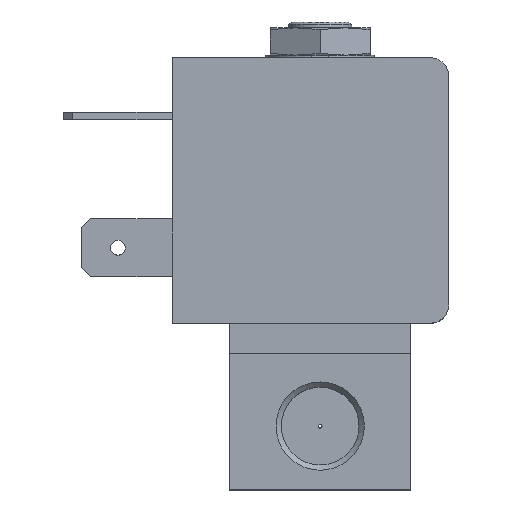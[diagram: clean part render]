
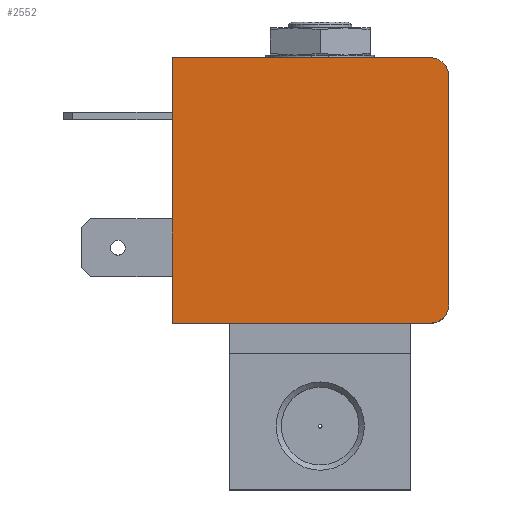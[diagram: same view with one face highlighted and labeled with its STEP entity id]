
A CAD part, top view. The second image highlights one B-rep face of the part: STEP entity #2552.
In plain terms, the highlighted planar face has unit normal (0, 0, 1).
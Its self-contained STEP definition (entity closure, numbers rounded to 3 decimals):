
#86=CIRCLE('',#2672,2.);
#88=CIRCLE('',#2676,2.);
#188=ORIENTED_EDGE('',*,*,#627,.T.);
#189=ORIENTED_EDGE('',*,*,#652,.T.);
#190=ORIENTED_EDGE('',*,*,#659,.T.);
#191=ORIENTED_EDGE('',*,*,#662,.T.);
#192=ORIENTED_EDGE('',*,*,#665,.T.);
#193=ORIENTED_EDGE('',*,*,#667,.T.);
#627=EDGE_CURVE('',#871,#870,#1039,.T.);
#652=EDGE_CURVE('',#870,#894,#1061,.T.);
#659=EDGE_CURVE('',#894,#900,#1068,.T.);
#662=EDGE_CURVE('',#900,#902,#86,.T.);
#665=EDGE_CURVE('',#902,#904,#1072,.T.);
#667=EDGE_CURVE('',#904,#871,#88,.T.);
#870=VERTEX_POINT('',#3344);
#871=VERTEX_POINT('',#3346);
#894=VERTEX_POINT('',#3394);
#900=VERTEX_POINT('',#3408);
#902=VERTEX_POINT('',#3414);
#904=VERTEX_POINT('',#3420);
#1039=LINE('',#3345,#1201);
#1061=LINE('',#3395,#1223);
#1068=LINE('',#3409,#1230);
#1072=LINE('',#3421,#1234);
#1201=VECTOR('',#2840,1000.);
#1223=VECTOR('',#2870,1000.);
#1230=VECTOR('',#2879,1000.);
#1234=VECTOR('',#2891,1000.);
#1373=EDGE_LOOP('',(#188,#189,#190,#191,#192,#193));
#1531=FACE_BOUND('',#1373,.T.);
#1681=PLANE('',#2677);
#2552=ADVANCED_FACE('',(#1531),#1681,.T.);
#2672=AXIS2_PLACEMENT_3D('',#3415,#2885,#2886);
#2676=AXIS2_PLACEMENT_3D('',#3424,#2896,#2897);
#2677=AXIS2_PLACEMENT_3D('',#3425,#2898,#2899);
#2840=DIRECTION('',(-1.,0.,0.));
#2870=DIRECTION('',(0.,-1.,0.));
#2879=DIRECTION('',(1.,0.,0.));
#2885=DIRECTION('',(0.,0.,1.));
#2886=DIRECTION('',(1.,0.,0.));
#2891=DIRECTION('',(0.,1.,0.));
#2896=DIRECTION('',(0.,0.,1.));
#2897=DIRECTION('',(1.,0.,0.));
#2898=DIRECTION('',(0.,0.,1.));
#2899=DIRECTION('',(1.,0.,0.));
#3344=CARTESIAN_POINT('',(-16.3,29.25,10.05));
#3345=CARTESIAN_POINT('',(12.15,29.25,10.05));
#3346=CARTESIAN_POINT('',(12.15,29.25,10.05));
#3394=CARTESIAN_POINT('',(-16.3,0.,10.05));
#3395=CARTESIAN_POINT('',(-16.3,29.25,10.05));
#3408=CARTESIAN_POINT('',(12.15,0.,10.05));
#3409=CARTESIAN_POINT('',(-16.3,0.,10.05));
#3414=CARTESIAN_POINT('',(14.15,2.,10.05));
#3415=CARTESIAN_POINT('',(12.15,2.,10.05));
#3420=CARTESIAN_POINT('',(14.15,27.25,10.05));
#3421=CARTESIAN_POINT('',(14.15,2.,10.05));
#3424=CARTESIAN_POINT('',(12.15,27.25,10.05));
#3425=CARTESIAN_POINT('',(12.15,2.,10.05));
